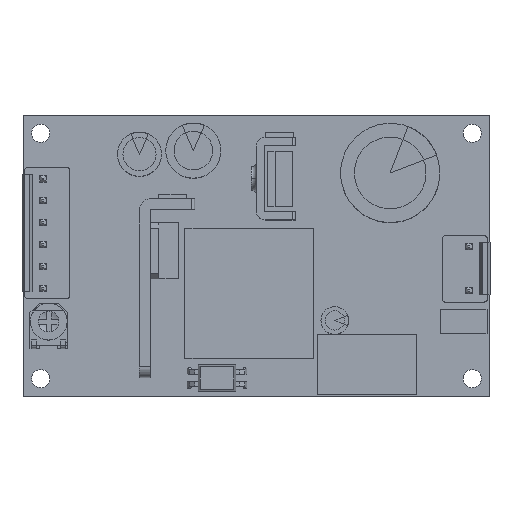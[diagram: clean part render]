
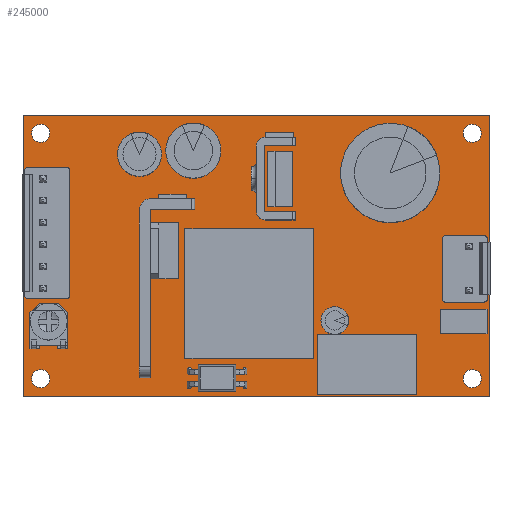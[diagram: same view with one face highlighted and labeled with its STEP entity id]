
A CAD part, top view. The second image highlights one B-rep face of the part: STEP entity #245000.
In plain terms, the highlighted planar face has unit normal (0, 0, 1).
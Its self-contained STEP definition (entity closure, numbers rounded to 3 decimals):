
#244010=CARTESIAN_POINT('',(263.268,212.58,
0.));
#244020=DIRECTION('',(0.,0.,1.));
#244030=DIRECTION('',(-1.,0.,0.));
#244040=AXIS2_PLACEMENT_3D('',#244010,#244020,#244030);
#244050=PLANE('',#244040);
#244060=CARTESIAN_POINT('',(201.8,109.583,
0.));
#244070=DIRECTION('',(-1.,0.,0.));
#244080=VECTOR('',#244070,1.);
#244090=LINE('',#244060,#244080);
#244100=CARTESIAN_POINT('',(201.8,109.583,
0.));
#244110=VERTEX_POINT('',#244100);
#244120=CARTESIAN_POINT('',(117.2,109.583,
0.));
#244130=VERTEX_POINT('',#244120);
#244140=EDGE_CURVE('',#244110,#244130,#244090,.T.);
#244150=ORIENTED_EDGE('',*,*,#244140,.F.);
#244160=CARTESIAN_POINT('',(117.2,109.583,
0.));
#244170=DIRECTION('',(0.,1.,0.));
#244180=VECTOR('',#244170,1.);
#244190=LINE('',#244160,#244180);
#244200=CARTESIAN_POINT('',(117.2,160.383,
0.));
#244210=VERTEX_POINT('',#244200);
#244220=EDGE_CURVE('',#244130,#244210,#244190,.T.);
#244230=ORIENTED_EDGE('',*,*,#244220,.F.);
#244240=CARTESIAN_POINT('',(117.2,160.383,
0.));
#244250=DIRECTION('',(1.,0.,0.));
#244260=VECTOR('',#244250,1.);
#244270=LINE('',#244240,#244260);
#244280=CARTESIAN_POINT('',(201.8,160.383,
0.));
#244290=VERTEX_POINT('',#244280);
#244300=EDGE_CURVE('',#244210,#244290,#244270,.T.);
#244310=ORIENTED_EDGE('',*,*,#244300,.F.);
#244320=CARTESIAN_POINT('',(201.8,160.383,
0.));
#244330=DIRECTION('',(0.,-1.,0.));
#244340=VECTOR('',#244330,1.);
#244350=LINE('',#244320,#244340);
#244360=EDGE_CURVE('',#244290,#244110,#244350,.T.);
#244370=ORIENTED_EDGE('',*,*,#244360,.F.);
#244380=EDGE_LOOP('',(#244370,#244310,#244230,#244150));
#244390=FACE_OUTER_BOUND('',#244380,.T.);
#244400=CARTESIAN_POINT('',(198.625,157.208,
0.));
#244410=DIRECTION('',(0.,0.,1.));
#244420=DIRECTION('',(1.,0.,0.));
#244430=AXIS2_PLACEMENT_3D('',#244400,#244410,#244420);
#244440=CIRCLE('',#244430,1.65);
#244450=CARTESIAN_POINT('',(200.275,157.208,
0.));
#244460=VERTEX_POINT('',#244450);
#244470=CARTESIAN_POINT('',(196.975,157.208,
0.));
#244480=VERTEX_POINT('',#244470);
#244490=EDGE_CURVE('',#244460,#244480,#244440,.T.);
#244500=ORIENTED_EDGE('',*,*,#244490,.F.);
#244510=EDGE_CURVE('',#244480,#244460,#244440,.T.);
#244520=ORIENTED_EDGE('',*,*,#244510,.F.);
#244530=EDGE_LOOP('',(#244520,#244500));
#244540=FACE_BOUND('',#244530,.T.);
#244550=CARTESIAN_POINT('',(120.375,157.208,
0.));
#244560=DIRECTION('',(0.,0.,1.));
#244570=DIRECTION('',(1.,0.,0.));
#244580=AXIS2_PLACEMENT_3D('',#244550,#244560,#244570);
#244590=CIRCLE('',#244580,1.65);
#244600=CARTESIAN_POINT('',(122.025,157.208,
0.));
#244610=VERTEX_POINT('',#244600);
#244620=CARTESIAN_POINT('',(118.725,157.208,
0.));
#244630=VERTEX_POINT('',#244620);
#244640=EDGE_CURVE('',#244610,#244630,#244590,.T.);
#244650=ORIENTED_EDGE('',*,*,#244640,.F.);
#244660=EDGE_CURVE('',#244630,#244610,#244590,.T.);
#244670=ORIENTED_EDGE('',*,*,#244660,.F.);
#244680=EDGE_LOOP('',(#244670,#244650));
#244690=FACE_BOUND('',#244680,.T.);
#244700=CARTESIAN_POINT('',(120.375,112.758,
0.));
#244710=DIRECTION('',(0.,0.,1.));
#244720=DIRECTION('',(1.,0.,0.));
#244730=AXIS2_PLACEMENT_3D('',#244700,#244710,#244720);
#244740=CIRCLE('',#244730,1.65);
#244750=CARTESIAN_POINT('',(122.025,112.758,
0.));
#244760=VERTEX_POINT('',#244750);
#244770=CARTESIAN_POINT('',(118.725,112.758,
0.));
#244780=VERTEX_POINT('',#244770);
#244790=EDGE_CURVE('',#244760,#244780,#244740,.T.);
#244800=ORIENTED_EDGE('',*,*,#244790,.F.);
#244810=EDGE_CURVE('',#244780,#244760,#244740,.T.);
#244820=ORIENTED_EDGE('',*,*,#244810,.F.);
#244830=EDGE_LOOP('',(#244820,#244800));
#244840=FACE_BOUND('',#244830,.T.);
#244850=CARTESIAN_POINT('',(198.625,112.758,
0.));
#244860=DIRECTION('',(0.,0.,1.));
#244870=DIRECTION('',(1.,0.,0.));
#244880=AXIS2_PLACEMENT_3D('',#244850,#244860,#244870);
#244890=CIRCLE('',#244880,1.65);
#244900=CARTESIAN_POINT('',(200.275,112.758,
0.));
#244910=VERTEX_POINT('',#244900);
#244920=CARTESIAN_POINT('',(196.975,112.758,
0.));
#244930=VERTEX_POINT('',#244920);
#244940=EDGE_CURVE('',#244910,#244930,#244890,.T.);
#244950=ORIENTED_EDGE('',*,*,#244940,.F.);
#244960=EDGE_CURVE('',#244930,#244910,#244890,.T.);
#244970=ORIENTED_EDGE('',*,*,#244960,.F.);
#244980=EDGE_LOOP('',(#244970,#244950));
#244990=FACE_BOUND('',#244980,.T.);
#245000=ADVANCED_FACE('',(#244390,#244540,#244690,#244840,#244990),
#244050,.T.);
